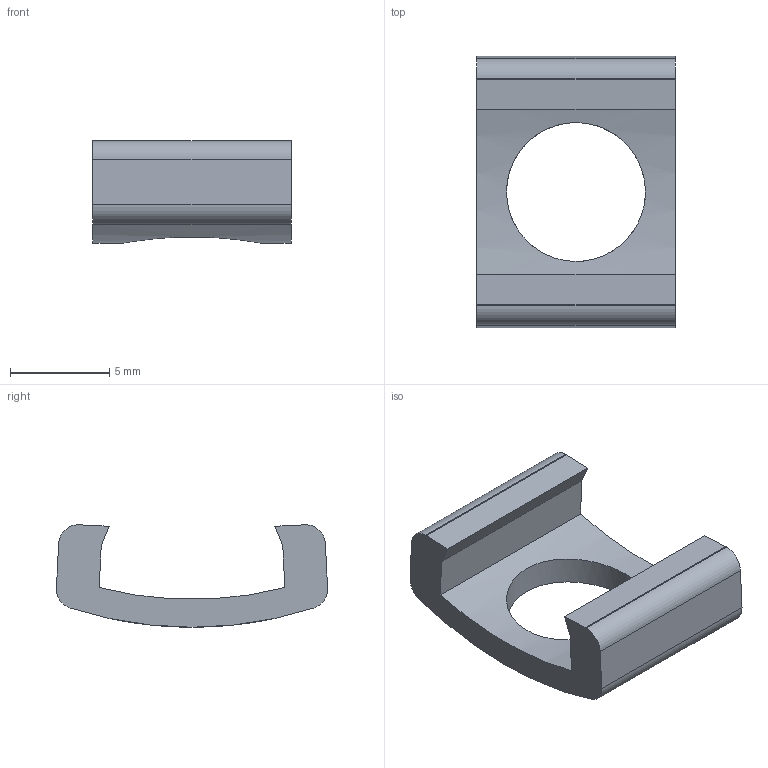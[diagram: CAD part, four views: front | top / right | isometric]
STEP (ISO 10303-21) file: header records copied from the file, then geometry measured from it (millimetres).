
FILE_DESCRIPTION (( 'STEP AP214' ), '1' );
FILE_NAME ('J3NE.step', '2017-05-24T07:40:02', ( 'admin' ), ( '' ), 'SwSTEP 2.0', 'SolidWorks 2014', '' );
FILE_SCHEMA (( 'AUTOMOTIVE_DESIGN' ));
Length unit declared in the file: millimetre
Products named in the file (1): J3NE
Bounding box: 10 x 13.67 x 5.16 mm (x, y, z)
Volume: 260.8 mm3; surface area: 432.2 mm2
Topology: 1 solids, 1 shells, 20 faces, 54 edges, 36 vertices
Faces by surface type: cylinder 10, plane 10
Entity records: 794 total; most frequent: CARTESIAN_POINT 241, ORIENTED_EDGE 108, DIRECTION 108, EDGE_CURVE 54, AXIS2_PLACEMENT_3D 37, VERTEX_POINT 36, VECTOR 34, LINE 34
